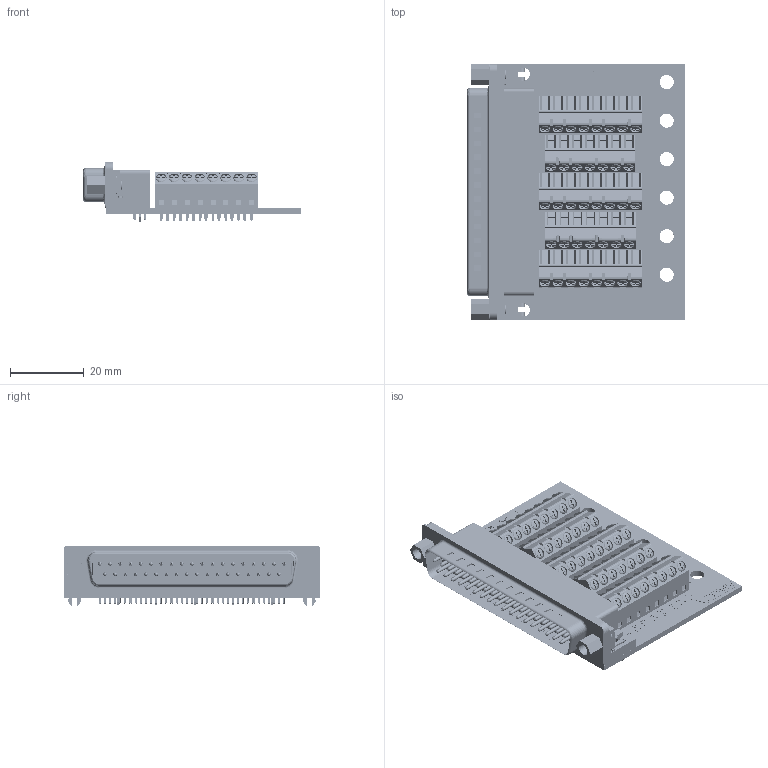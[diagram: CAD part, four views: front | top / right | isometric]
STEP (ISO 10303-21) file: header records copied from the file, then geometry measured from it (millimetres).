
FILE_DESCRIPTION (( 'STEP AP214' ), '1' );
FILE_NAME ('brksd37m-r_rev_a.step', '2021-09-23T20:53:01', ( '' ), ( '' ), 'SwSTEP 2.0', 'SolidWorks 2018', '' );
FILE_SCHEMA (( 'AUTOMOTIVE_DESIGN' ));
Length unit declared in the file: millimetre
Products named in the file (5): 2 Position green screw terminal block; brksd37m-r_rev_a; 3 Position green screw terminal block; BRKSD37M; Male Right Angle 37 Pin Jack Screws
Assembly tree (17 placements, depth 2):
  brksd37m-r_rev_a
    BRKSD37M
    Male Right Angle 37 Pin Jack Screws
    2 Position green screw terminal block  x7
    3 Position green screw terminal block  x8
Bounding box: 58.69 x 69.36 x 16.32 mm (x, y, z)
Volume: 5615.8 mm3; surface area: 34085.8 mm2
Topology: 1 solids, 310 shells, 13673 faces, 35220 edges, 22245 vertices
Faces by surface type: plane 7253, bspline 3908, cylinder 2418, cone 76, torus 18
Entity records: 572523 total; most frequent: CARTESIAN_POINT 239874, ORIENTED_EDGE 51638, DIRECTION 37185, EDGE_CURVE 25993, VERTEX_POINT 16307, VECTOR 15169, LINE 15169, AXIS2_PLACEMENT_3D 11008
